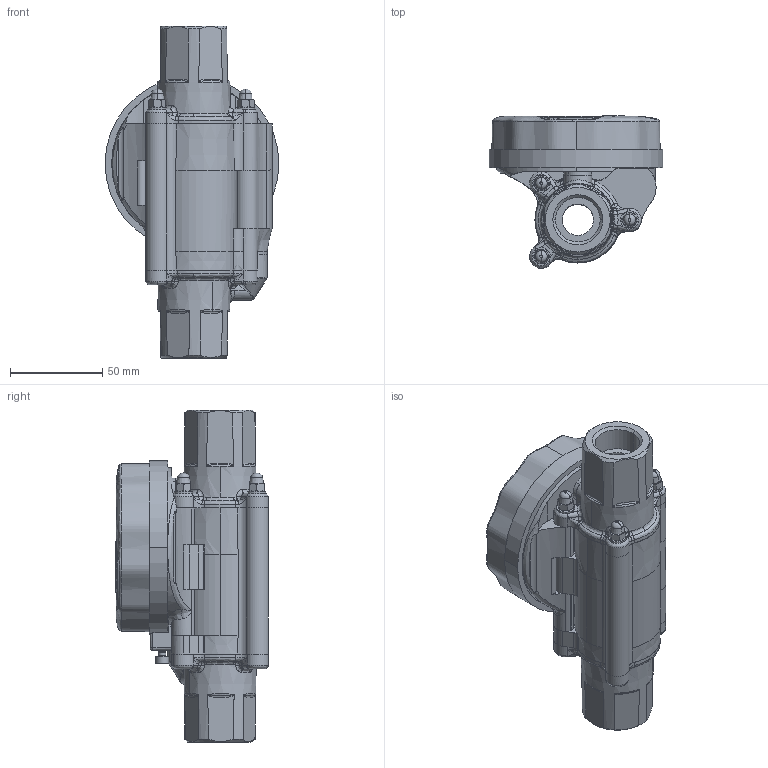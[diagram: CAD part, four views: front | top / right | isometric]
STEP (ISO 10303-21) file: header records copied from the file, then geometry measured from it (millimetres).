
FILE_DESCRIPTION (( 'STEP AP214' ), '1' );
FILE_NAME ('PAP-S020-FFG.STEP', '2020-02-04T16:01:56', ( 'Windows User' ), ( 'Watts Water' ), 'SwSTEP 2.0', 'SolidWorks 2017', '' );
FILE_SCHEMA (( 'AUTOMOTIVE_DESIGN' ));
Length unit declared in the file: millimetre
Products named in the file (1): PAP-S020-FFG
Bounding box: 94 x 82.55 x 179.6 mm (x, y, z)
Surface area: 81402.4 mm2 (no closed solid volume)
Topology: 0 solids, 29 shells, 734 faces, 2584 edges, 1776 vertices
Faces by surface type: bspline 243, plane 234, cylinder 164, cone 70, torus 21, sphere 2
Entity records: 68335 total; most frequent: CARTESIAN_POINT 40816, ORIENTED_EDGE 4174, DIRECTION 3418, EDGE_CURVE 2546, VERTEX_POINT 1776, AXIS2_PLACEMENT_3D 1271, LINE 876, VECTOR 876
